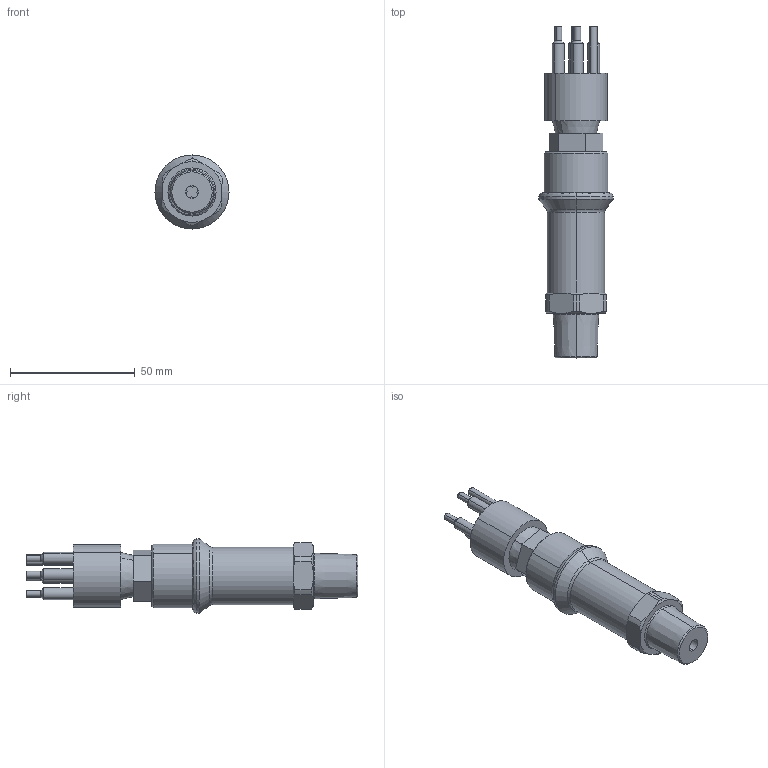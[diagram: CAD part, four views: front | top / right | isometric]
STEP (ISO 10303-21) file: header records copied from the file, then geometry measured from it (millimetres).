
FILE_DESCRIPTION (( 'STEP AP214' ), '1' );
FILE_NAME ('D-0424-DOD iss 1.STEP', '2024-07-01T09:48:24', ( '' ), ( '' ), 'SwSTEP 2.0', 'SolidWorks 2021', '' );
FILE_SCHEMA (( 'AUTOMOTIVE_DESIGN' ));
Length unit declared in the file: inch
Products named in the file (5): Part2^D-0424-DOD iss 1; bh4m.stp; D-0424-DOD iss 1; D-0421-M iss 1; New Cover for Assembly Drawing
Assembly tree (3 placements, depth 2):
  Part2^D-0424-DOD iss 1
  D-0424-DOD iss 1
    D-0421-M iss 1
    New Cover for Assembly Drawing
    bh4m.stp
Bounding box: 29.76 x 133.2 x 29.76 mm (x, y, z)
Volume: 37242.3 mm3; surface area: 19043.5 mm2
Topology: 3 solids, 3 shells, 306 faces, 730 edges, 464 vertices
Faces by surface type: cylinder 102, plane 91, cone 58, bspline 33, torus 22
Entity records: 14357 total; most frequent: CARTESIAN_POINT 4986, ORIENTED_EDGE 1460, DIRECTION 1390, EDGE_CURVE 730, AXIS2_PLACEMENT_3D 532, VERTEX_POINT 464, EDGE_LOOP 344, LINE 326
